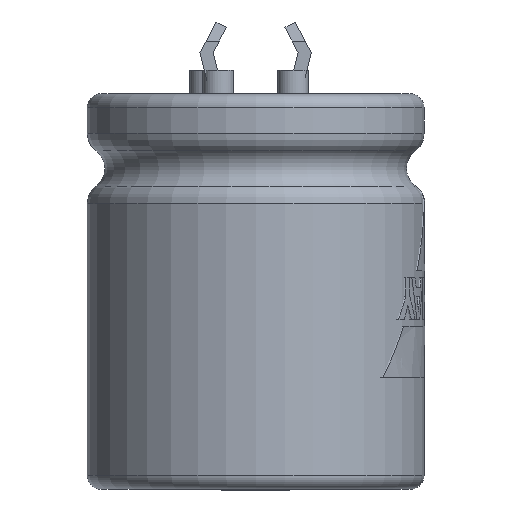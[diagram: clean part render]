
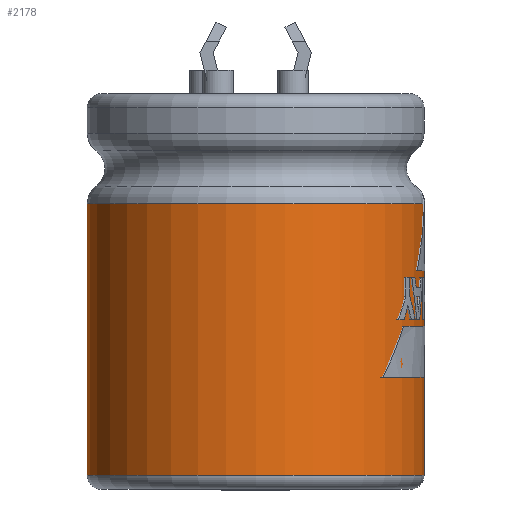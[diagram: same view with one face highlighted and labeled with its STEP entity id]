
A CAD part, left-side view. The second image highlights one B-rep face of the part: STEP entity #2178.
In plain terms, the highlighted cylindrical face has radius 11.5 mm (diameter 23 mm), a full revolution.
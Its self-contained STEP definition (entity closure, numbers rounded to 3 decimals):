
#2110 = TOROIDAL_SURFACE('',#2111,10.,1.5);
#2111 = AXIS2_PLACEMENT_3D('',#2112,#2113,#2114);
#2112 = CARTESIAN_POINT('',(0.,0.,-6.55));
#2113 = DIRECTION('',(0.,0.,1.));
#2114 = DIRECTION('',(1.,0.,0.));
#2126 = EDGE_CURVE('',#2127,#2127,#2129,.T.);
#2127 = VERTEX_POINT('',#2128);
#2128 = CARTESIAN_POINT('',(11.5,0.,-6.55));
#2129 = SURFACE_CURVE('',#2130,(#2135,#2142),.PCURVE_S1.);
#2130 = CIRCLE('',#2131,11.5);
#2131 = AXIS2_PLACEMENT_3D('',#2132,#2133,#2134);
#2132 = CARTESIAN_POINT('',(0.,0.,-6.55));
#2133 = DIRECTION('',(0.,0.,1.));
#2134 = DIRECTION('',(1.,0.,0.));
#2135 = PCURVE('',#2110,#2136);
#2136 = DEFINITIONAL_REPRESENTATION('',(#2137),#2141);
#2137 = LINE('',#2138,#2139);
#2138 = CARTESIAN_POINT('',(0.,0.));
#2139 = VECTOR('',#2140,1.);
#2140 = DIRECTION('',(1.,0.));
#2141 = ( GEOMETRIC_REPRESENTATION_CONTEXT(2) 
PARAMETRIC_REPRESENTATION_CONTEXT() REPRESENTATION_CONTEXT('2D SPACE',''
  ) );
#2142 = PCURVE('',#2143,#2148);
#2143 = CYLINDRICAL_SURFACE('',#2144,11.5);
#2144 = AXIS2_PLACEMENT_3D('',#2145,#2146,#2147);
#2145 = CARTESIAN_POINT('',(0.,0.,-25.1));
#2146 = DIRECTION('',(0.,0.,1.));
#2147 = DIRECTION('',(1.,0.,0.));
#2148 = DEFINITIONAL_REPRESENTATION('',(#2149),#2153);
#2149 = LINE('',#2150,#2151);
#2150 = CARTESIAN_POINT('',(0.,18.55));
#2151 = VECTOR('',#2152,1.);
#2152 = DIRECTION('',(1.,0.));
#2153 = ( GEOMETRIC_REPRESENTATION_CONTEXT(2) 
PARAMETRIC_REPRESENTATION_CONTEXT() REPRESENTATION_CONTEXT('2D SPACE',''
  ) );
#2178 = ADVANCED_FACE('',(#2179),#2143,.T.);
#2179 = FACE_BOUND('',#2180,.T.);
#2180 = EDGE_LOOP('',(#2181,#2210,#2231,#2232));
#2181 = ORIENTED_EDGE('',*,*,#2182,.T.);
#2182 = EDGE_CURVE('',#2183,#2183,#2185,.T.);
#2183 = VERTEX_POINT('',#2184);
#2184 = CARTESIAN_POINT('',(11.5,0.,-25.1));
#2185 = SURFACE_CURVE('',#2186,(#2191,#2198),.PCURVE_S1.);
#2186 = CIRCLE('',#2187,11.5);
#2187 = AXIS2_PLACEMENT_3D('',#2188,#2189,#2190);
#2188 = CARTESIAN_POINT('',(0.,0.,-25.1));
#2189 = DIRECTION('',(0.,0.,1.));
#2190 = DIRECTION('',(1.,0.,0.));
#2191 = PCURVE('',#2143,#2192);
#2192 = DEFINITIONAL_REPRESENTATION('',(#2193),#2197);
#2193 = LINE('',#2194,#2195);
#2194 = CARTESIAN_POINT('',(0.,0.));
#2195 = VECTOR('',#2196,1.);
#2196 = DIRECTION('',(1.,0.));
#2197 = ( GEOMETRIC_REPRESENTATION_CONTEXT(2) 
PARAMETRIC_REPRESENTATION_CONTEXT() REPRESENTATION_CONTEXT('2D SPACE',''
  ) );
#2198 = PCURVE('',#2199,#2204);
#2199 = TOROIDAL_SURFACE('',#2200,10.55,0.95);
#2200 = AXIS2_PLACEMENT_3D('',#2201,#2202,#2203);
#2201 = CARTESIAN_POINT('',(0.,0.,-25.1));
#2202 = DIRECTION('',(0.,0.,1.));
#2203 = DIRECTION('',(1.,0.,0.));
#2204 = DEFINITIONAL_REPRESENTATION('',(#2205),#2209);
#2205 = LINE('',#2206,#2207);
#2206 = CARTESIAN_POINT('',(0.,6.283));
#2207 = VECTOR('',#2208,1.);
#2208 = DIRECTION('',(1.,0.));
#2209 = ( GEOMETRIC_REPRESENTATION_CONTEXT(2) 
PARAMETRIC_REPRESENTATION_CONTEXT() REPRESENTATION_CONTEXT('2D SPACE',''
  ) );
#2210 = ORIENTED_EDGE('',*,*,#2211,.T.);
#2211 = EDGE_CURVE('',#2183,#2127,#2212,.T.);
#2212 = SEAM_CURVE('',#2213,(#2217,#2224),.PCURVE_S1.);
#2213 = LINE('',#2214,#2215);
#2214 = CARTESIAN_POINT('',(11.5,0.,-25.1));
#2215 = VECTOR('',#2216,1.);
#2216 = DIRECTION('',(0.,0.,1.));
#2217 = PCURVE('',#2143,#2218);
#2218 = DEFINITIONAL_REPRESENTATION('',(#2219),#2223);
#2219 = LINE('',#2220,#2221);
#2220 = CARTESIAN_POINT('',(0.,0.));
#2221 = VECTOR('',#2222,1.);
#2222 = DIRECTION('',(0.,1.));
#2223 = ( GEOMETRIC_REPRESENTATION_CONTEXT(2) 
PARAMETRIC_REPRESENTATION_CONTEXT() REPRESENTATION_CONTEXT('2D SPACE',''
  ) );
#2224 = PCURVE('',#2143,#2225);
#2225 = DEFINITIONAL_REPRESENTATION('',(#2226),#2230);
#2226 = LINE('',#2227,#2228);
#2227 = CARTESIAN_POINT('',(6.283,0.));
#2228 = VECTOR('',#2229,1.);
#2229 = DIRECTION('',(0.,1.));
#2230 = ( GEOMETRIC_REPRESENTATION_CONTEXT(2) 
PARAMETRIC_REPRESENTATION_CONTEXT() REPRESENTATION_CONTEXT('2D SPACE',''
  ) );
#2231 = ORIENTED_EDGE('',*,*,#2126,.F.);
#2232 = ORIENTED_EDGE('',*,*,#2211,.F.);
